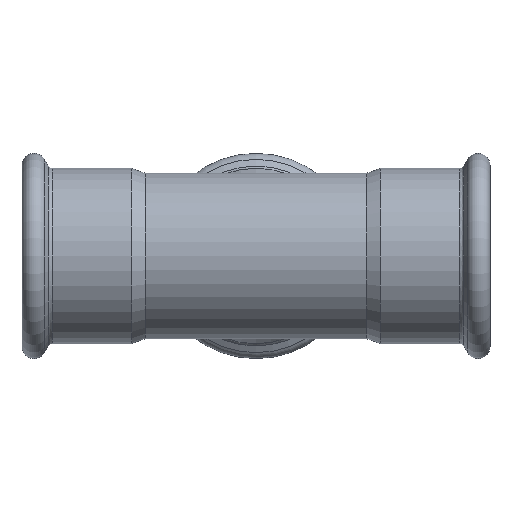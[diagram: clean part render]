
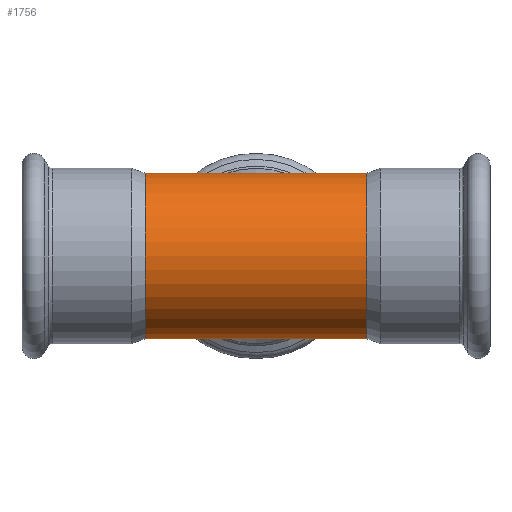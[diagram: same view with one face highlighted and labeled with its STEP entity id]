
A CAD part, front view. The second image highlights one B-rep face of the part: STEP entity #1756.
In plain terms, the highlighted cylindrical face has radius 38.05 mm (diameter 76.1 mm), a full revolution.
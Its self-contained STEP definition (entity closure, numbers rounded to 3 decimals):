
#1157=CARTESIAN_POINT('',(0.,0.0,-38.05));
#1158=VERTEX_POINT('',#1157);
#1159=CARTESIAN_POINT('',(0.,0.0,38.05));
#1160=VERTEX_POINT('',#1159);
#1168=CARTESIAN_POINT('',(0.0,0.0,0.0));
#1169=DIRECTION('',(-0.689,0.725,0.));
#1170=DIRECTION('',(0.725,0.689,0.0));
#1171=AXIS2_PLACEMENT_3D('',#1168,#1169,#1170);
#1172=ELLIPSE('',#1171,55.243,38.05);
#1173=EDGE_CURVE('',#1160,#1158,#1172,.T.);
#1386=CARTESIAN_POINT('',(0.0,0.0,0.0));
#1387=DIRECTION('',(0.689,0.725,0.));
#1388=DIRECTION('',(-0.725,0.689,0.0));
#1389=AXIS2_PLACEMENT_3D('',#1386,#1387,#1388);
#1390=ELLIPSE('',#1389,55.243,38.05);
#1391=EDGE_CURVE('',#1158,#1160,#1390,.T.);
#1718=CARTESIAN_POINT('',(-50.966,38.05,0.0));
#1719=VERTEX_POINT('',#1718);
#1720=CARTESIAN_POINT('',(-50.966,0.,0.0));
#1721=DIRECTION('',(1.0,0.0,0.0));
#1722=DIRECTION('',(0.0,1.0,0.0));
#1723=AXIS2_PLACEMENT_3D('',#1720,#1721,#1722);
#1724=CIRCLE('',#1723,38.05);
#1725=EDGE_CURVE('',#1719,#1719,#1724,.T.);
#1733=CARTESIAN_POINT('',(0.,0.,0.0));
#1734=DIRECTION('',(1.0,0.,0.0));
#1735=DIRECTION('',(0.0,1.0,0.0));
#1736=AXIS2_PLACEMENT_3D('',#1733,#1734,#1735);
#1737=CYLINDRICAL_SURFACE('',#1736,38.05);
#1738=CARTESIAN_POINT('',(50.966,38.05,0.0));
#1739=VERTEX_POINT('',#1738);
#1740=CARTESIAN_POINT('',(50.966,0.,0.0));
#1741=DIRECTION('',(1.0,0.0,0.0));
#1742=DIRECTION('',(0.0,1.0,0.0));
#1743=AXIS2_PLACEMENT_3D('',#1740,#1741,#1742);
#1744=CIRCLE('',#1743,38.05);
#1745=EDGE_CURVE('',#1739,#1739,#1744,.T.);
#1746=ORIENTED_EDGE('',*,*,#1745,.F.);
#1747=EDGE_LOOP('',(#1746));
#1748=FACE_OUTER_BOUND('',#1747,.T.);
#1749=ORIENTED_EDGE('',*,*,#1173,.F.);
#1750=ORIENTED_EDGE('',*,*,#1391,.F.);
#1751=EDGE_LOOP('',(#1749,#1750));
#1752=FACE_BOUND('',#1751,.T.);
#1753=ORIENTED_EDGE('',*,*,#1725,.T.);
#1754=EDGE_LOOP('',(#1753));
#1755=FACE_BOUND('',#1754,.T.);
#1756=ADVANCED_FACE('',(#1748,#1752,#1755),#1737,.T.);
